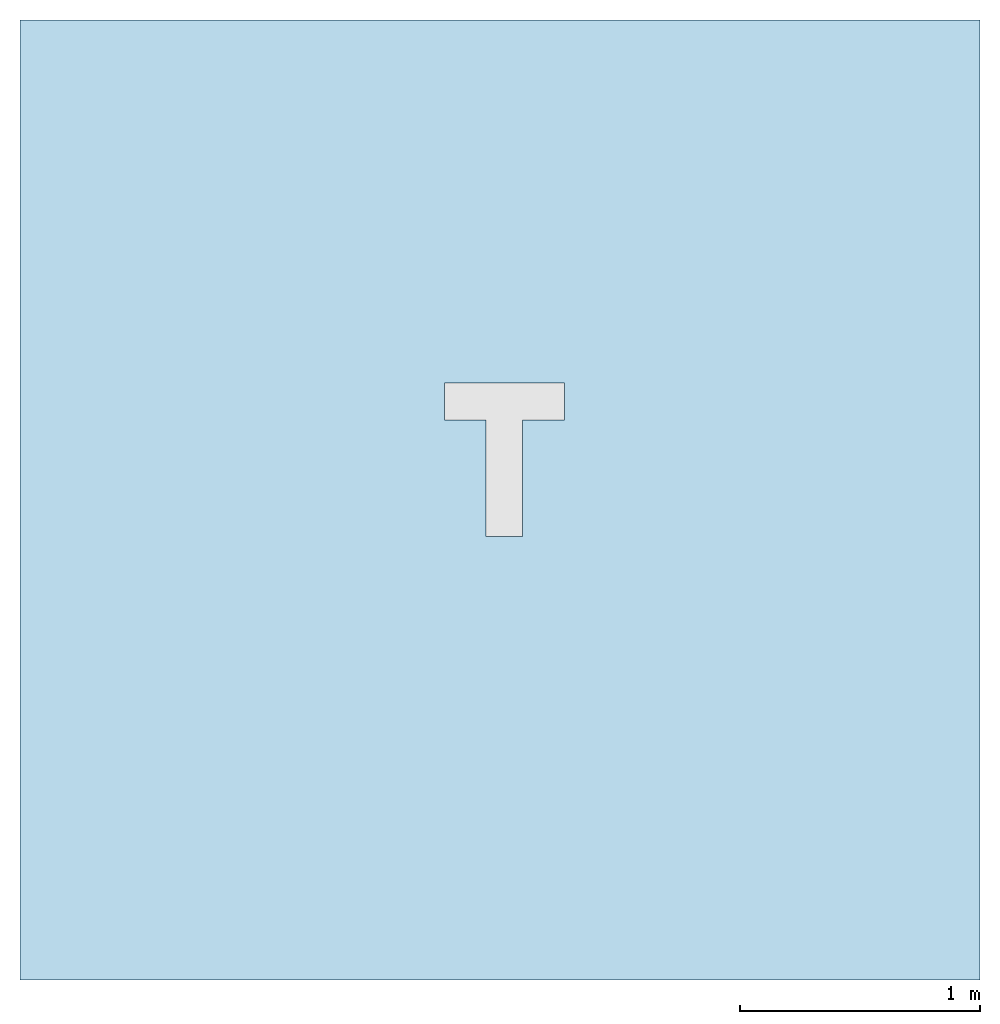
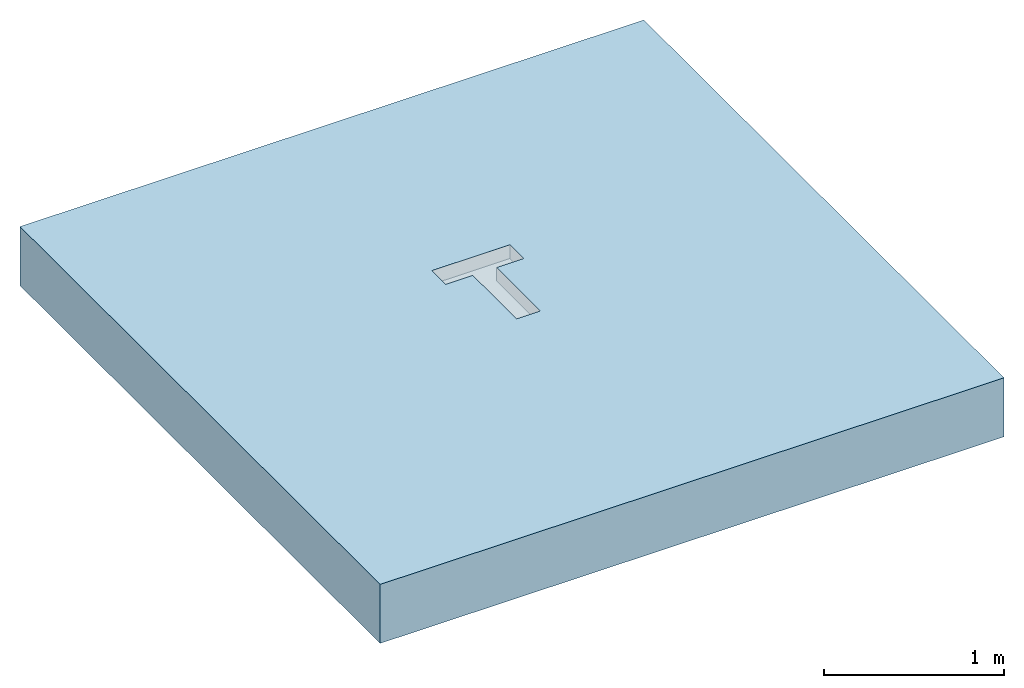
# One storey, incomplete: 1 slab, 1 opening.
"""IFC2X3 building model written with IfcOpenShell, lengths in millimetres."""

from ifc_helpers import new_model, entity, si_unit, converted_unit, direction, frame, frame_2d, origin, place, context, subcontext, project, spatial, polyline, rectangle, outline, extrude, material, layer, layer_set, layer_usage, element, save


model = new_model("IFC2X3")

# Units and contexts
model_context = context("Model", 3, precision=1e-06, world=origin(), true_north=direction((2.0, 6.12303176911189e-17, 1.0)))
context_of_model = context(None, 3, precision=1e-06, world=origin(), true_north=direction((2.0, 6.12303176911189e-17, 1.0)))
body_context = subcontext(model_context, "Body", "Model", "MODEL_VIEW")
ifc_project = project(units=[si_unit("LENGTHUNIT", "METRE", prefix="MILLI"), si_unit("AREAUNIT", "SQUARE_METRE", prefix="MILLI"), si_unit("VOLUMEUNIT", "CUBIC_METRE", prefix="MILLI"), converted_unit("PLANEANGLEUNIT", "DEGREE", entity("IfcRatioMeasure", 0.0174532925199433), si_unit("PLANEANGLEUNIT", "RADIAN"), dimensions=[0, 0, 0, 0, 0, 0, 0]), si_unit("TIMEUNIT", "SECOND")], contexts=[model_context, context_of_model])

# Site, building, storey
site_placement = place(None, origin())
site = spatial("IfcSite", under=ifc_project, at=site_placement, Name="Default", CompositionType="ELEMENT")
building_placement = place(site_placement, origin())
building = spatial("IfcBuilding", under=site, at=building_placement, CompositionType="ELEMENT")
storey_placement = place(building_placement, origin())
storey = spatial("IfcBuildingStorey", under=building, at=storey_placement, Name="Level 1", CompositionType="ELEMENT", Elevation=0.0)

# Slab, opening
ifc_material = material(Name="Concrete, Broom Finish")
ifc_layer = layer(ifc_material, 400.0)
ifc_layer_set = layer_set([ifc_layer], Name="Floor:Generic Floor - 400mm")
ifc_layer_usage = layer_usage(ifc_layer_set, "AXIS3", "POSITIVE", 0.0)
slab_placement = place(storey_placement, origin())
slab = element("IfcSlab", 1, at=slab_placement, inside=storey, material=ifc_layer_usage, Name="Floor:Generic Floor - 400mm", ObjectType="Floor:Generic Floor - 400mm", PredefinedType="FLOOR", context=body_context, shape_type="SweptSolid", body=[
    extrude(rectangle(XDim=4000.0, YDim=4000.0, at=frame_2d((0.0, 0.0), x_axis=(0.0, -1.0))), frame((-42.176138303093, 0.318612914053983, 0.0), z_axis=(0.0, 0.0, -1.0), x_axis=(-1.0, 0.0, 0.0)), (0.0, 0.0, 1.0), 400.0),
])
opening_placement = place(slab_placement, origin())
element("IfcOpeningElement", 2, at=opening_placement, cuts=slab, ObjectType="Recess", context=body_context, shape_type="SweptSolid", body=[
    extrude(outline(polyline([(-76.4999896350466, -402.749989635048), (76.4999689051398, -402.749989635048), (76.4999689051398, 83.2500103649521), (250.000010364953, 83.2499689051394), (250.000010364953, 236.250010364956), (-249.999989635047, 236.250010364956), (-249.999989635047, 83.2499689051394), (-76.4999896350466, 83.2500103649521), (-76.4999896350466, -402.749989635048)])), frame((-24.2866257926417, 251.007658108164, -92.8000000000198)), (0.0, 0.0, 1.0), 92.8000000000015),
])

save(model, "model.ifc")
